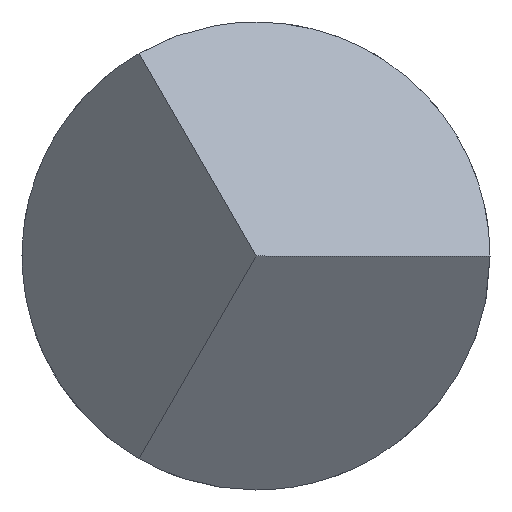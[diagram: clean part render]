
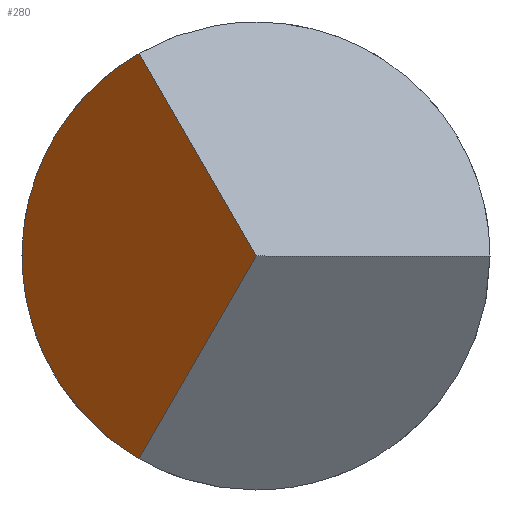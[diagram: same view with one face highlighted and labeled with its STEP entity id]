
A CAD part, left-side view. The second image highlights one B-rep face of the part: STEP entity #280.
In plain terms, the highlighted planar face has unit normal (-0.707, 0.707, 0).
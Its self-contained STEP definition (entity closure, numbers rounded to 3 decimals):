
#9 = CARTESIAN_POINT ( 'NONE',  ( -8.317, 0.443, -0.766 ) ) ;
#13 = CARTESIAN_POINT ( 'NONE',  ( -7.654, 1.106, -0.383 ) ) ;
#14 = CARTESIAN_POINT ( 'NONE',  ( -7.654, 1.106, 0.383 ) ) ;
#57 = ORIENTED_EDGE ( 'NONE', *, *, #298, .T. ) ;
#58 = ORIENTED_EDGE ( 'NONE', *, *, #295, .F. ) ;
#74 = ORIENTED_EDGE ( 'NONE', *, *, #284, .F. ) ;
#89 = VERTEX_POINT ( 'NONE', #369 ) ;
#92 = VERTEX_POINT ( 'NONE', #355 ) ;
#136 = CARTESIAN_POINT ( 'NONE',  ( -8.317, 0.442, 0.766 ) ) ;
#178 = VECTOR ( 'NONE', #395, 1000. ) ;
#182 = VECTOR ( 'NONE', #386, 1000. ) ;
#236 = CARTESIAN_POINT ( 'NONE',  ( -8.76, 0., -1. ) ) ;
#239 = FACE_OUTER_BOUND ( 'NONE', #365, .T. ) ;
#240 = PLANE ( 'NONE',  #260 ) ;
#241 = DIRECTION ( 'NONE',  ( 0.707, -0.707, 0. ) ) ;
#242 = DIRECTION ( 'NONE',  ( 0.707, 0.707, 0. ) ) ;
#260 = AXIS2_PLACEMENT_3D ( 'NONE', #236, #241, #242 ) ;
#280 = ADVANCED_FACE ( 'NONE', ( #239 ), #240, .F. ) ;
#284 = EDGE_CURVE ( 'NONE', #92, #450, #316, .T. ) ;
#295 = EDGE_CURVE ( 'NONE', #450, #89, #382, .T. ) ;
#298 = EDGE_CURVE ( 'NONE', #92, #89, #392, .T. ) ;
#316 =( BOUNDED_CURVE ( )  B_SPLINE_CURVE ( 3, ( #9, #13, #14, #404 ),
 .UNSPECIFIED., .F., .T. ) 
 B_SPLINE_CURVE_WITH_KNOTS ( ( 4, 4 ),
 ( 5.236, 7.33 ),
 .UNSPECIFIED. ) 
 CURVE ( )  GEOMETRIC_REPRESENTATION_ITEM ( )  RATIONAL_B_SPLINE_CURVE ( ( 1., 0.667, 0.667, 1. ) ) 
 REPRESENTATION_ITEM ( '' )  );
#355 = CARTESIAN_POINT ( 'NONE',  ( -8.317, 0.443, -0.766 ) ) ;
#365 = EDGE_LOOP ( 'NONE', ( #57, #58, #74 ) ) ;
#369 = CARTESIAN_POINT ( 'NONE',  ( -8.76, 0., 0. ) ) ;
#377 = CARTESIAN_POINT ( 'NONE',  ( -8.414, 0.346, 0.6 ) ) ;
#382 = LINE ( 'NONE', #377, #182 ) ;
#386 = DIRECTION ( 'NONE',  ( -0.447, -0.447, -0.775 ) ) ;
#392 = LINE ( 'NONE', #394, #178 ) ;
#394 = CARTESIAN_POINT ( 'NONE',  ( -8.414, 0.346, -0.6 ) ) ;
#395 = DIRECTION ( 'NONE',  ( -0.447, -0.447, 0.775 ) ) ;
#404 = CARTESIAN_POINT ( 'NONE',  ( -8.317, 0.442, 0.766 ) ) ;
#450 = VERTEX_POINT ( 'NONE', #136 ) ;
